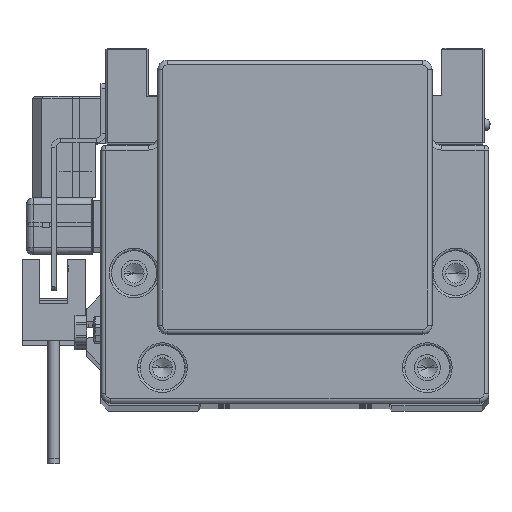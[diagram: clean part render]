
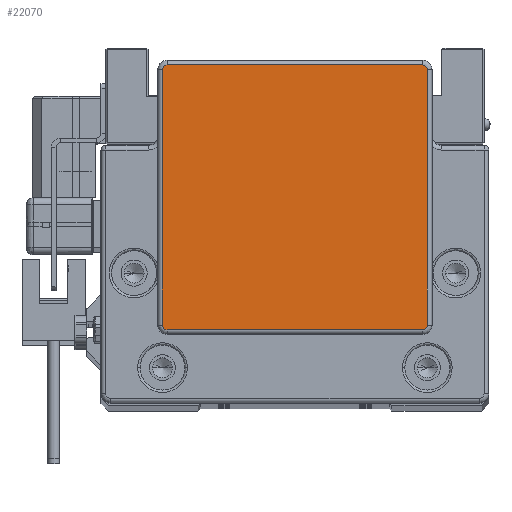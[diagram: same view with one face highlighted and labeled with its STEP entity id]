
A CAD part, top view. The second image highlights one B-rep face of the part: STEP entity #22070.
In plain terms, the highlighted planar face has unit normal (0, 0, 1).
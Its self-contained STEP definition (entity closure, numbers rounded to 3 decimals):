
#459 = VERTEX_POINT ( 'NONE', #13567 ) ;
#865 = CARTESIAN_POINT ( 'NONE',  ( -27., 35.25, 17. ) ) ;
#1719 = DIRECTION ( 'NONE',  ( 1., 0., 0. ) ) ;
#2916 = CARTESIAN_POINT ( 'NONE',  ( 28., 34.25, 17. ) ) ;
#3377 = CARTESIAN_POINT ( 'NONE',  ( -28., -19.75, 17. ) ) ;
#3677 = LINE ( 'NONE', #15744, #36100 ) ;
#3808 = CARTESIAN_POINT ( 'NONE',  ( -27., -20.75, 17. ) ) ;
#3942 = DIRECTION ( 'NONE',  ( 0., 1., 0. ) ) ;
#4160 = AXIS2_PLACEMENT_3D ( 'NONE', #17648, #24864, #45128 ) ;
#4339 = EDGE_CURVE ( 'NONE', #9778, #13187, #38871, .T. ) ;
#4420 = CARTESIAN_POINT ( 'NONE',  ( -27., -19.75, 17. ) ) ;
#4738 = ORIENTED_EDGE ( 'NONE', *, *, #31005, .T. ) ;
#5403 = CARTESIAN_POINT ( 'NONE',  ( 27., 35.25, 17. ) ) ;
#6094 = CARTESIAN_POINT ( 'NONE',  ( 28., -19.75, 17. ) ) ;
#7946 = CARTESIAN_POINT ( 'NONE',  ( 27., -20.75, 17. ) ) ;
#8284 = LINE ( 'NONE', #28066, #34278 ) ;
#9778 = VERTEX_POINT ( 'NONE', #3377 ) ;
#9898 = EDGE_CURVE ( 'NONE', #459, #9778, #28531, .T. ) ;
#10529 = AXIS2_PLACEMENT_3D ( 'NONE', #4420, #23689, #27544 ) ;
#11096 = PLANE ( 'NONE',  #10529 ) ;
#11845 = CARTESIAN_POINT ( 'NONE',  ( -27., 34.25, 17. ) ) ;
#12263 = VERTEX_POINT ( 'NONE', #2916 ) ;
#12488 = ORIENTED_EDGE ( 'NONE', *, *, #19315, .T. ) ;
#12521 = ORIENTED_EDGE ( 'NONE', *, *, #9898, .T. ) ;
#12865 = AXIS2_PLACEMENT_3D ( 'NONE', #11845, #46761, #50343 ) ;
#13187 = VERTEX_POINT ( 'NONE', #3808 ) ;
#13567 = CARTESIAN_POINT ( 'NONE',  ( -28., 34.25, 17. ) ) ;
#13951 = ORIENTED_EDGE ( 'NONE', *, *, #19555, .T. ) ;
#14852 = ORIENTED_EDGE ( 'NONE', *, *, #4339, .T. ) ;
#15426 = VERTEX_POINT ( 'NONE', #6094 ) ;
#15744 = CARTESIAN_POINT ( 'NONE',  ( 28., 34.25, 17. ) ) ;
#15757 = CIRCLE ( 'NONE', #24784, 1. ) ;
#16450 = DIRECTION ( 'NONE',  ( 0., -1., 0. ) ) ;
#16551 = EDGE_CURVE ( 'NONE', #12263, #20915, #15757, .T. ) ;
#16617 = DIRECTION ( 'NONE',  ( 0., 0., 1. ) ) ;
#17648 = CARTESIAN_POINT ( 'NONE',  ( 27., -19.75, 17. ) ) ;
#19315 = EDGE_CURVE ( 'NONE', #20915, #20128, #36279, .T. ) ;
#19555 = EDGE_CURVE ( 'NONE', #20128, #459, #30113, .T. ) ;
#19938 = DIRECTION ( 'NONE',  ( 1., 0., 0. ) ) ;
#20006 = ORIENTED_EDGE ( 'NONE', *, *, #16551, .T. ) ;
#20128 = VERTEX_POINT ( 'NONE', #37101 ) ;
#20518 = CIRCLE ( 'NONE', #4160, 1. ) ;
#20915 = VERTEX_POINT ( 'NONE', #5403 ) ;
#21123 = DIRECTION ( 'NONE',  ( -1., 0., 0. ) ) ;
#22070 = ADVANCED_FACE ( 'NONE', ( #31904 ), #11096, .T. ) ;
#23689 = DIRECTION ( 'NONE',  ( 0., 0., 1. ) ) ;
#24784 = AXIS2_PLACEMENT_3D ( 'NONE', #27937, #42791, #19938 ) ;
#24864 = DIRECTION ( 'NONE',  ( 0., 0., 1. ) ) ;
#27544 = DIRECTION ( 'NONE',  ( 1., 0., 0. ) ) ;
#27937 = CARTESIAN_POINT ( 'NONE',  ( 27., 34.25, 17. ) ) ;
#28066 = CARTESIAN_POINT ( 'NONE',  ( 27., -20.75, 17. ) ) ;
#28308 = DIRECTION ( 'NONE',  ( 1., 0., 0. ) ) ;
#28445 = VECTOR ( 'NONE', #21123, 1000. ) ;
#28531 = LINE ( 'NONE', #44173, #49081 ) ;
#29176 = ORIENTED_EDGE ( 'NONE', *, *, #46564, .T. ) ;
#29492 = ORIENTED_EDGE ( 'NONE', *, *, #33254, .T. ) ;
#30113 = CIRCLE ( 'NONE', #12865, 1. ) ;
#31005 = EDGE_CURVE ( 'NONE', #13187, #47537, #8284, .T. ) ;
#31904 = FACE_OUTER_BOUND ( 'NONE', #33613, .T. ) ;
#33254 = EDGE_CURVE ( 'NONE', #15426, #12263, #3677, .T. ) ;
#33613 = EDGE_LOOP ( 'NONE', ( #12488, #13951, #12521, #14852, #4738, #29176, #29492, #20006 ) ) ;
#34278 = VECTOR ( 'NONE', #28308, 1000. ) ;
#36100 = VECTOR ( 'NONE', #3942, 1000. ) ;
#36279 = LINE ( 'NONE', #865, #28445 ) ;
#37101 = CARTESIAN_POINT ( 'NONE',  ( -27., 35.25, 17. ) ) ;
#37223 = AXIS2_PLACEMENT_3D ( 'NONE', #47922, #16617, #1719 ) ;
#38871 = CIRCLE ( 'NONE', #37223, 1. ) ;
#42791 = DIRECTION ( 'NONE',  ( 0., 0., 1. ) ) ;
#44173 = CARTESIAN_POINT ( 'NONE',  ( -28., -19.75, 17. ) ) ;
#45128 = DIRECTION ( 'NONE',  ( 1., 0., 0. ) ) ;
#46564 = EDGE_CURVE ( 'NONE', #47537, #15426, #20518, .T. ) ;
#46761 = DIRECTION ( 'NONE',  ( 0., 0., 1. ) ) ;
#47537 = VERTEX_POINT ( 'NONE', #7946 ) ;
#47922 = CARTESIAN_POINT ( 'NONE',  ( -27., -19.75, 17. ) ) ;
#49081 = VECTOR ( 'NONE', #16450, 1000. ) ;
#50343 = DIRECTION ( 'NONE',  ( 1., 0., 0. ) ) ;
